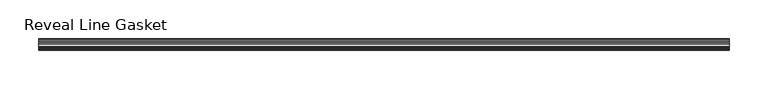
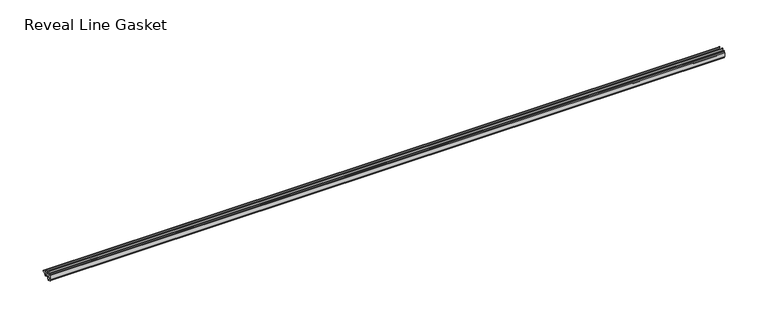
"""IFC4 building model written with IfcOpenShell, lengths in millimetres: proxy geometry, Accessories-Teknion-FHGR-AI_Healthcare-Reveal_Line_Gasket(Horizontal)-R2022 : Reveal Line Gasket."""

from ifc_helpers import new_model, si_unit, point, frame, frame_2d, origin, place, context, project, spatial, polyline, circle_curve, trimmed, segment, composite_curve, outline, extrude, source, transform, mapped, element, save


def reveal_line_gasket_51938528(model_context):
    return source(origin(), model_context, "Body", "SweptSolid", [
        extrude(outline(composite_curve([segment(polyline([(-7.6326998, 1603.2), (-7.4091917, 1604.1554927), (-6.8813059, 1605.0884684)]), True, "CONTINUOUS"), segment(trimmed(circle_curve(frame_2d((-6.5243141, 1604.8864793)), 0.4101739), [point((-6.8813059, 1605.0884684))], [point((-6.1246704, 1604.7941347))], False, "CARTESIAN"), True, "CONTINUOUS"), segment(polyline([(-6.1246704, 1604.7941347), (-6.3626997, 1603.0979086), (-6.3626997, 1601.0654527)]), True, "CONTINUOUS"), segment(trimmed(circle_curve(frame_2d((-5.6959605, 1601.4819258)), 0.786124), [point((-6.3626997, 1601.0654527))], [point((-5.0926996, 1600.977875))], True, "CARTESIAN"), True, "CONTINUOUS"), segment(polyline([(-5.0926996, 1600.977875), (-0.7492996, 1600.977875), (-3.7293824, 1606.1395295)]), True, "CONTINUOUS"), segment(trimmed(circle_curve(frame_2d((-3.3132479, 1606.2049761)), 0.4212495), [point((-3.7293824, 1606.1395295))], [point((-3.0485022, 1606.5326358))], False, "CARTESIAN"), True, "CONTINUOUS"), segment(polyline([(-3.0485022, 1606.5326358), (0.5742594, 1600.977875), (4.8262978, 1600.977875), (3.1660374, 1603.8535297)]), True, "CONTINUOUS"), segment(trimmed(circle_curve(frame_2d((3.5978728, 1603.9118855)), 0.4357605), [point((3.1660374, 1603.8535297))], [point((3.864328, 1604.2566881))], False, "CARTESIAN"), True, "CONTINUOUS"), segment(polyline([(3.864328, 1604.2566881), (6.1944059, 1600.977875), (7.6326998, 1600.977875), (7.6326998, 1599.422125), (6.1944059, 1599.422125), (3.864328, 1596.1433119)]), True, "CONTINUOUS"), segment(trimmed(circle_curve(frame_2d((3.5978728, 1596.4881145)), 0.4357605), [point((3.864328, 1596.1433119))], [point((3.1660374, 1596.5464703))], False, "CARTESIAN"), True, "CONTINUOUS"), segment(polyline([(3.1660374, 1596.5464703), (4.8262978, 1599.422125), (0.5742594, 1599.422125), (-3.0485022, 1593.8673642)]), True, "CONTINUOUS"), segment(trimmed(circle_curve(frame_2d((-3.3132479, 1594.1950239)), 0.4212495), [point((-3.0485022, 1593.8673642))], [point((-3.7293824, 1594.2604705))], False, "CARTESIAN"), True, "CONTINUOUS"), segment(polyline([(-3.7293824, 1594.2604705), (-0.7492996, 1599.422125), (-5.0926996, 1599.422125)]), True, "CONTINUOUS"), segment(trimmed(circle_curve(frame_2d((-5.6959605, 1598.9180742)), 0.786124), [point((-5.0926996, 1599.422125))], [point((-6.3626997, 1599.3345473))], True, "CARTESIAN"), True, "CONTINUOUS"), segment(polyline([(-6.3626997, 1599.3345473), (-6.3626997, 1597.3020914), (-6.1246704, 1595.6058653)]), True, "CONTINUOUS"), segment(trimmed(circle_curve(frame_2d((-6.5243141, 1595.5135207)), 0.4101739), [point((-6.1246704, 1595.6058653))], [point((-6.8813059, 1595.3115316))], False, "CARTESIAN"), True, "CONTINUOUS"), segment(polyline([(-6.8813059, 1595.3115316), (-7.4091917, 1596.2445073), (-7.6326998, 1597.2), (-7.6326998, 1603.2)]), True, "CONTINUOUS")], self_intersect=False)), frame((-447.7193698, 0.0, 0.0), z_axis=(1.0, 0.0, 0.0), x_axis=(0.0, 1.0, 0.0)), (0.0, 0.0, 1.0), 895.4387397),
    ])


if __name__ == "__main__":
    model = new_model("IFC4")
    model_context = context("Model", 3, world=origin())
    ifc_project = project(units=[si_unit("LENGTHUNIT", "METRE", prefix="MILLI")], contexts=[model_context])
    site = spatial("IfcSite", under=ifc_project)
    building = spatial("IfcBuilding", under=site)
    placement = place(None, origin())
    reveal_line_gasket_shape = reveal_line_gasket_51938528(model_context)
    element("IfcBuildingElementProxy", 1, Name="Accessories-Teknion-FHGR-AI_Healthcare-Reveal_Line_Gasket(Horizontal)-R2022 : Reveal Line Gasket", ObjectType="Accessories-Teknion-FHGR-AI_Healthcare-Reveal_Line_Gasket(Horizontal)-R2022 : Reveal Line Gasket", at=placement, inside=building, context=model_context, shape_type="MappedRepresentation", body=[
        mapped(reveal_line_gasket_shape, transform((0.0, 0.0, 0.0), x_axis=(1.0, 0.0, 0.0), y_axis=(0.0, 1.0, 0.0), z_axis=(0.0, 0.0, 1.0))),
    ])
    save(model, "model.ifc")
